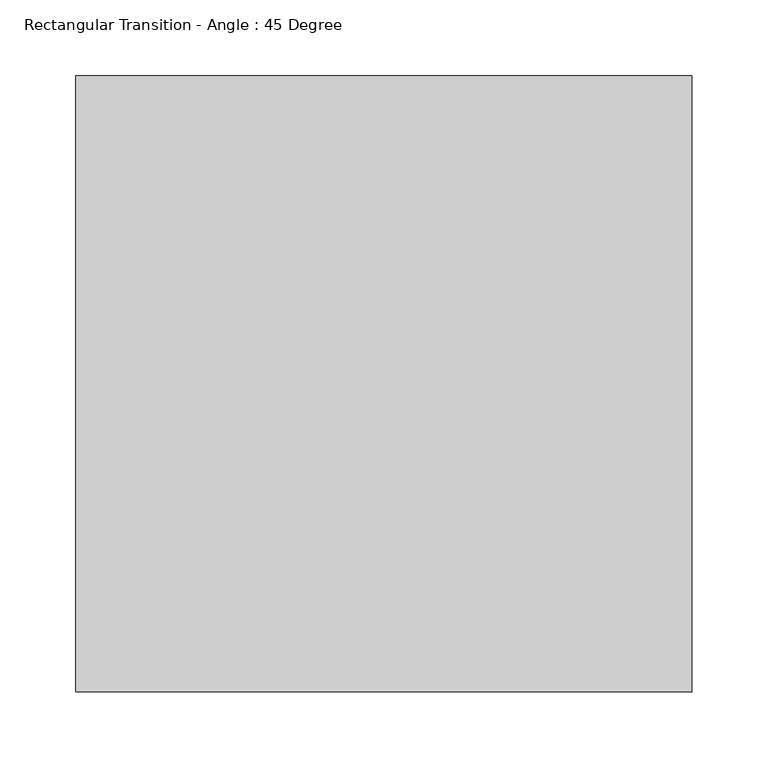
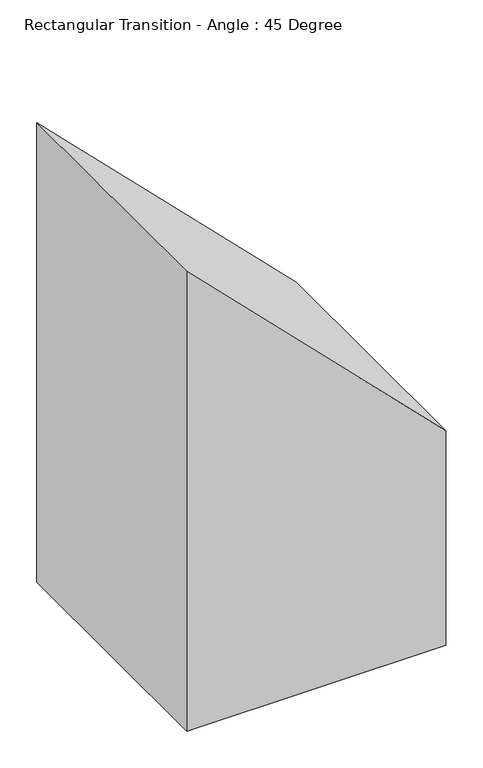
"""IFC4 building model written with IfcOpenShell, lengths in millimetres: duct fitting geometry, Rectangular Transition - Angle : 45 Degree."""

from ifc_helpers import new_model, si_unit, frame, origin, place, context, project, spatial, polyline, outline, extrude, source, transform, mapped, element, save


def rectangular_transition_angle_45_degree_adbc5f9d(model_context):
    return source(origin(), model_context, "Body", "SweptSolid", [
        extrude(outline(polyline([(381.0, 0.0), (-381.0, 0.0), (-381.0, 406.4), (-25.4, 406.4), (381.0, 0.0)])), frame((0.0, -203.2, 0.0), z_axis=(0.0, 1.0, 0.0), x_axis=(0.0, 0.0, 1.0)), (0.0, 0.0, 1.0), 406.4),
    ])


if __name__ == "__main__":
    model = new_model("IFC4")
    model_context = context("Model", 3, world=origin())
    ifc_project = project(units=[si_unit("LENGTHUNIT", "METRE", prefix="MILLI")], contexts=[model_context])
    site = spatial("IfcSite", under=ifc_project)
    building = spatial("IfcBuilding", under=site)
    placement = place(None, origin())
    rectangular_transition_angle_45_degree_shape = rectangular_transition_angle_45_degree_adbc5f9d(model_context)
    element("IfcDuctFitting", 1, ObjectType="Rectangular Transition - Angle : 45 Degree", at=placement, inside=building, context=model_context, shape_type="MappedRepresentation", body=[
        mapped(rectangular_transition_angle_45_degree_shape, transform((0.0, 0.0, 0.0), x_axis=(1.0, 0.0, 0.0), y_axis=(0.0, 1.0, 0.0), z_axis=(0.0, 0.0, 1.0))),
    ])
    save(model, "model.ifc")
